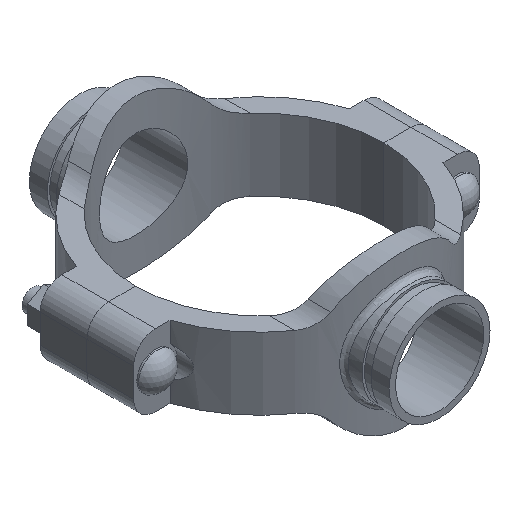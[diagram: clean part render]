
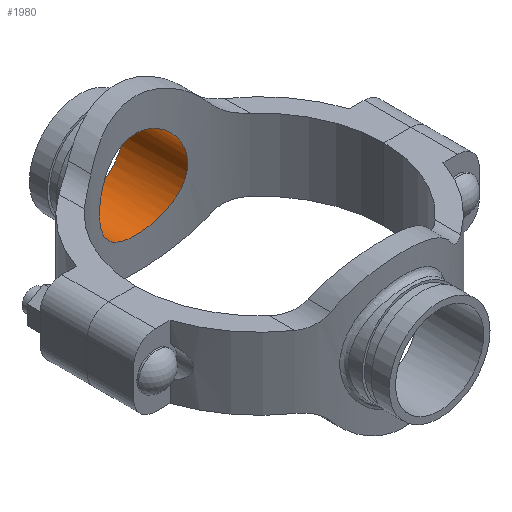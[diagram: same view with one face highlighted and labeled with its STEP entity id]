
A CAD part, isometric view. The second image highlights one B-rep face of the part: STEP entity #1980.
In plain terms, the highlighted cylindrical face has radius 38.894 mm (diameter 77.787 mm), a full revolution.
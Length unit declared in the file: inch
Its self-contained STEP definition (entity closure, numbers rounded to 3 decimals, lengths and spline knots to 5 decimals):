
#35=B_SPLINE_CURVE_WITH_KNOTS('',3,(#3422,#3423,#3424,#3425,#3426,#3427,
#3428,#3429,#3430,#3431,#3432,#3433,#3434,#3435,#3436,#3437,#3438,#3439,
#3440,#3441,#3442,#3443,#3444,#3445,#3446,#3447,#3448,#3449,#3450,#3451,
#3452,#3453,#3454,#3455,#3456,#3457,#3458,#3459,#3460,#3461,#3462,#3463,
#3464,#3465,#3466,#3467,#3468,#3469,#3470,#3471,#3472,#3473,#3474,#3475,
#3476,#3477,#3478,#3479,#3480,#3481,#3482,#3483,#3484,#3485,#3486,#3487),
 .UNSPECIFIED.,.T.,.F.,(4,2,2,2,2,2,2,2,2,2,2,2,2,2,2,2,2,2,2,2,2,2,2,2,
2,2,2,2,2,2,2,2,4),(0.,0.7398,1.4796,2.2194,
2.95919,3.69854,4.43789,5.17724,5.91659,
6.65594,7.39529,8.13464,8.87399,9.61379,
10.35359,11.09339,11.83319,12.57299,13.31279,
14.05259,14.79238,15.53173,16.27108,17.01043,
17.74978,18.48913,19.22848,19.96783,20.70718,
21.44698,22.18678,22.92658,23.66638),
 .UNSPECIFIED.);
#77=CYLINDRICAL_SURFACE('',#2186,1.53125);
#178=FACE_OUTER_BOUND('',#293,.T.);
#293=EDGE_LOOP('',(#1408,#1409,#1410,#1411));
#440=LINE('',#3421,#590);
#590=VECTOR('',#2532,1.53125);
#713=CIRCLE('',#2187,1.53125);
#846=VERTEX_POINT('',#3418);
#847=VERTEX_POINT('',#3420);
#1062=EDGE_CURVE('',#846,#846,#713,.T.);
#1063=EDGE_CURVE('',#846,#847,#440,.T.);
#1064=EDGE_CURVE('',#847,#847,#35,.T.);
#1408=ORIENTED_EDGE('',*,*,#1062,.F.);
#1409=ORIENTED_EDGE('',*,*,#1063,.T.);
#1410=ORIENTED_EDGE('',*,*,#1064,.F.);
#1411=ORIENTED_EDGE('',*,*,#1063,.F.);
#1980=ADVANCED_FACE('',(#178),#77,.F.);
#2186=AXIS2_PLACEMENT_3D('',#3417,#2528,#2529);
#2187=AXIS2_PLACEMENT_3D('',#3419,#2530,#2531);
#2528=DIRECTION('center_axis',(0.,-1.,0.));
#2529=DIRECTION('ref_axis',(-1.,0.,0.));
#2530=DIRECTION('center_axis',(0.,-1.,0.));
#2531=DIRECTION('ref_axis',(-1.,0.,0.));
#2532=DIRECTION('',(0.,-1.,0.));
#3417=CARTESIAN_POINT('Origin',(0.,6.25,0.));
#3418=CARTESIAN_POINT('',(1.53125,6.25,0.));
#3419=CARTESIAN_POINT('Origin',(0.,6.25,0.));
#3420=CARTESIAN_POINT('',(1.53125,4.03149,0.));
#3421=CARTESIAN_POINT('',(1.53125,6.25,0.));
#3422=CARTESIAN_POINT('Ctrl Pts',(1.53125,4.03149,0.));
#3423=CARTESIAN_POINT('Ctrl Pts',(1.53125,4.03149,-0.09709));
#3424=CARTESIAN_POINT('Ctrl Pts',(1.52187,4.0351,-0.19718));
#3425=CARTESIAN_POINT('Ctrl Pts',(1.48269,4.04966,-0.39572));
#3426=CARTESIAN_POINT('Ctrl Pts',(1.45291,4.0606,-0.49416));
#3427=CARTESIAN_POINT('Ctrl Pts',(1.37453,4.08779,-0.6825));
#3428=CARTESIAN_POINT('Ctrl Pts',(1.32587,4.10404,-0.77257));
#3429=CARTESIAN_POINT('Ctrl Pts',(1.21375,4.13859,-0.93893));
#3430=CARTESIAN_POINT('Ctrl Pts',(1.15028,4.15685,-1.01523));
#3431=CARTESIAN_POINT('Ctrl Pts',(1.01527,4.19187,-1.15024));
#3432=CARTESIAN_POINT('Ctrl Pts',(0.939,4.20989,-1.2137));
#3433=CARTESIAN_POINT('Ctrl Pts',(0.77262,4.24357,-1.32584));
#3434=CARTESIAN_POINT('Ctrl Pts',(0.68252,4.25921,-1.37452));
#3435=CARTESIAN_POINT('Ctrl Pts',(0.49412,4.28515,-1.45292));
#3436=CARTESIAN_POINT('Ctrl Pts',(0.39565,4.29546,-1.48271));
#3437=CARTESIAN_POINT('Ctrl Pts',(0.1971,4.30914,-1.52188));
#3438=CARTESIAN_POINT('Ctrl Pts',(0.09703,4.3125,-1.53125));
#3439=CARTESIAN_POINT('Ctrl Pts',(-0.09703,4.3125,-1.53125));
#3440=CARTESIAN_POINT('Ctrl Pts',(-0.1971,4.30914,-1.52188));
#3441=CARTESIAN_POINT('Ctrl Pts',(-0.39565,4.29546,-1.48271));
#3442=CARTESIAN_POINT('Ctrl Pts',(-0.49412,4.28515,-1.45292));
#3443=CARTESIAN_POINT('Ctrl Pts',(-0.68252,4.25921,-1.37452));
#3444=CARTESIAN_POINT('Ctrl Pts',(-0.77262,4.24357,-1.32584));
#3445=CARTESIAN_POINT('Ctrl Pts',(-0.939,4.20989,-1.2137));
#3446=CARTESIAN_POINT('Ctrl Pts',(-1.01527,4.19187,-1.15024));
#3447=CARTESIAN_POINT('Ctrl Pts',(-1.15028,4.15685,-1.01523));
#3448=CARTESIAN_POINT('Ctrl Pts',(-1.21375,4.13859,-0.93893));
#3449=CARTESIAN_POINT('Ctrl Pts',(-1.32587,4.10404,-0.77257));
#3450=CARTESIAN_POINT('Ctrl Pts',(-1.37453,4.08779,-0.6825));
#3451=CARTESIAN_POINT('Ctrl Pts',(-1.45291,4.0606,-0.49416));
#3452=CARTESIAN_POINT('Ctrl Pts',(-1.48269,4.04966,-0.39572));
#3453=CARTESIAN_POINT('Ctrl Pts',(-1.52187,4.0351,-0.19718));
#3454=CARTESIAN_POINT('Ctrl Pts',(-1.53125,4.03149,-0.09709));
#3455=CARTESIAN_POINT('Ctrl Pts',(-1.53125,4.03149,0.09709));
#3456=CARTESIAN_POINT('Ctrl Pts',(-1.52187,4.0351,0.19718));
#3457=CARTESIAN_POINT('Ctrl Pts',(-1.48269,4.04966,0.39572));
#3458=CARTESIAN_POINT('Ctrl Pts',(-1.45291,4.0606,0.49416));
#3459=CARTESIAN_POINT('Ctrl Pts',(-1.37453,4.08779,0.6825));
#3460=CARTESIAN_POINT('Ctrl Pts',(-1.32587,4.10404,0.77257));
#3461=CARTESIAN_POINT('Ctrl Pts',(-1.21375,4.13859,0.93893));
#3462=CARTESIAN_POINT('Ctrl Pts',(-1.15028,4.15685,1.01523));
#3463=CARTESIAN_POINT('Ctrl Pts',(-1.01527,4.19187,1.15024));
#3464=CARTESIAN_POINT('Ctrl Pts',(-0.939,4.20989,1.2137));
#3465=CARTESIAN_POINT('Ctrl Pts',(-0.77262,4.24357,1.32584));
#3466=CARTESIAN_POINT('Ctrl Pts',(-0.68252,4.25921,1.37452));
#3467=CARTESIAN_POINT('Ctrl Pts',(-0.49412,4.28515,1.45292));
#3468=CARTESIAN_POINT('Ctrl Pts',(-0.39565,4.29546,1.48271));
#3469=CARTESIAN_POINT('Ctrl Pts',(-0.1971,4.30914,1.52188));
#3470=CARTESIAN_POINT('Ctrl Pts',(-0.09703,4.3125,1.53125));
#3471=CARTESIAN_POINT('Ctrl Pts',(0.09703,4.3125,1.53125));
#3472=CARTESIAN_POINT('Ctrl Pts',(0.1971,4.30914,1.52188));
#3473=CARTESIAN_POINT('Ctrl Pts',(0.39565,4.29546,1.48271));
#3474=CARTESIAN_POINT('Ctrl Pts',(0.49412,4.28515,1.45292));
#3475=CARTESIAN_POINT('Ctrl Pts',(0.68252,4.25921,1.37452));
#3476=CARTESIAN_POINT('Ctrl Pts',(0.77262,4.24357,1.32584));
#3477=CARTESIAN_POINT('Ctrl Pts',(0.939,4.20989,1.2137));
#3478=CARTESIAN_POINT('Ctrl Pts',(1.01527,4.19187,1.15024));
#3479=CARTESIAN_POINT('Ctrl Pts',(1.15028,4.15685,1.01523));
#3480=CARTESIAN_POINT('Ctrl Pts',(1.21375,4.13859,0.93893));
#3481=CARTESIAN_POINT('Ctrl Pts',(1.32587,4.10404,0.77257));
#3482=CARTESIAN_POINT('Ctrl Pts',(1.37453,4.08779,0.6825));
#3483=CARTESIAN_POINT('Ctrl Pts',(1.45291,4.0606,0.49416));
#3484=CARTESIAN_POINT('Ctrl Pts',(1.48269,4.04966,0.39572));
#3485=CARTESIAN_POINT('Ctrl Pts',(1.52187,4.0351,0.19718));
#3486=CARTESIAN_POINT('Ctrl Pts',(1.53125,4.03149,0.09709));
#3487=CARTESIAN_POINT('Ctrl Pts',(1.53125,4.03149,0.));
